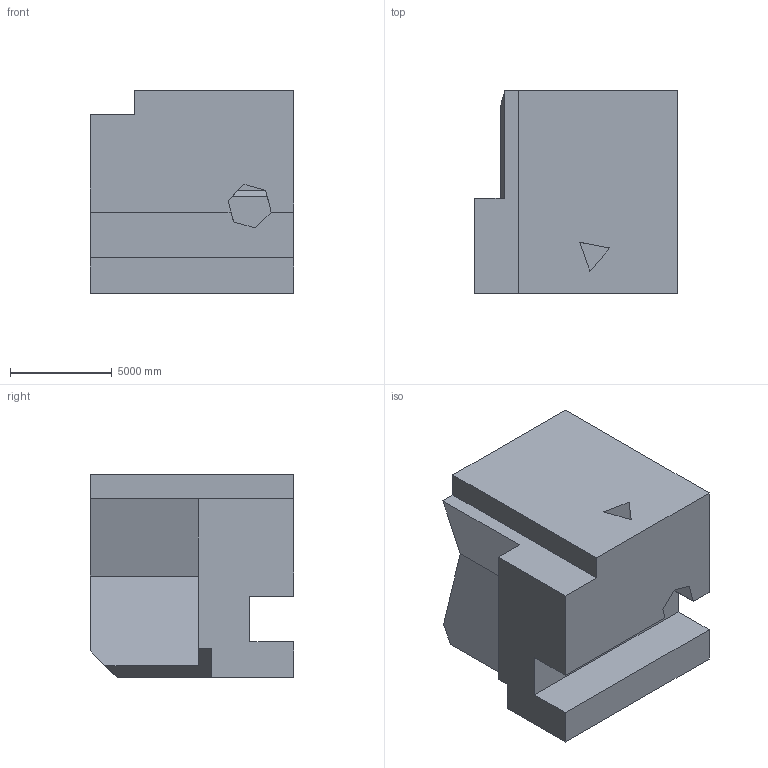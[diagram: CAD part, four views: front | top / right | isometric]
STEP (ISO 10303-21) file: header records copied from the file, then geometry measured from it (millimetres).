
FILE_DESCRIPTION (( 'STEP AP203' ), '1' );
FILE_NAME ('839.STEP', '2022-07-29T13:36:38', ( 'user' ), ( '' ), 'SwSTEP 2.0', 'SolidWorks 2021', '' );
FILE_SCHEMA (( 'CONFIG_CONTROL_DESIGN' ));
Length unit declared in the file: centimetre
Products named in the file (1): 839
Bounding box: 10000 x 10000 x 10000 mm (x, y, z)
Volume: 756196397189.8 mm3; surface area: 762779598 mm2
Topology: 1 solids, 1 shells, 44 faces, 120 edges, 80 vertices
Faces by surface type: plane 40, cylinder 4
Entity records: 1453 total; most frequent: CARTESIAN_POINT 245, ORIENTED_EDGE 240, DIRECTION 218, EDGE_CURVE 120, VECTOR 112, LINE 112, VERTEX_POINT 80, AXIS2_PLACEMENT_3D 53
